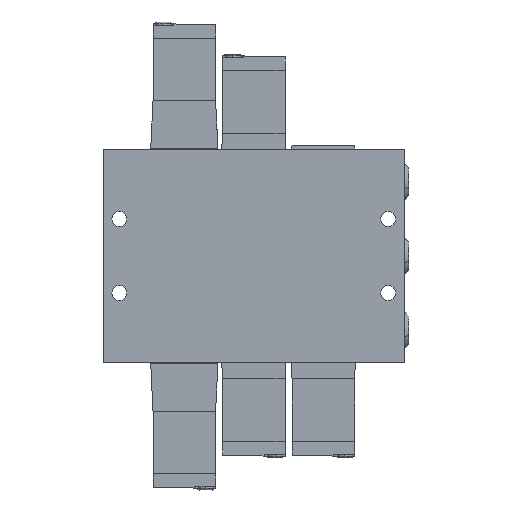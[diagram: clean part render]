
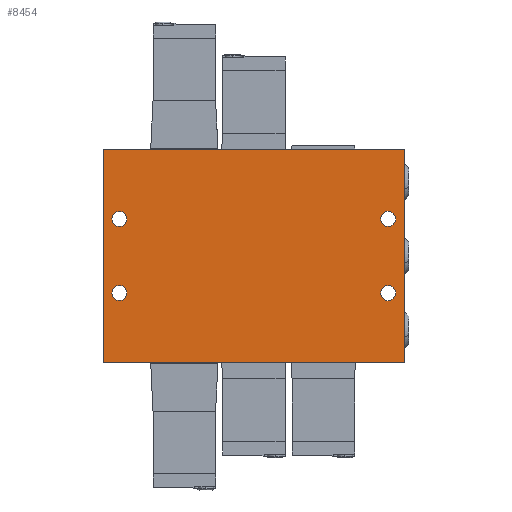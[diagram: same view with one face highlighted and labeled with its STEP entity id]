
A CAD part, front view. The second image highlights one B-rep face of the part: STEP entity #8454.
In plain terms, the highlighted planar face has unit normal (0, -1, 0).
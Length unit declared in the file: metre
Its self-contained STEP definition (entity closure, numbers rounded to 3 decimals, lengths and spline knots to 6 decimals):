
#46 = FACE_BOUND ( 'NONE', #6497, .T. ) ;
#160 = VECTOR ( 'NONE', #11881, 1. ) ;
#328 = DIRECTION ( 'NONE',  ( 0., -1., 0. ) ) ;
#375 = AXIS2_PLACEMENT_3D ( 'NONE', #6476, #17003, #7943 ) ;
#564 = ORIENTED_EDGE ( 'NONE', *, *, #4190, .F. ) ;
#855 = ORIENTED_EDGE ( 'NONE', *, *, #9497, .F. ) ;
#1053 = DIRECTION ( 'NONE',  ( -1., 0., 0. ) ) ;
#1081 = LINE ( 'NONE', #6040, #160 ) ;
#1249 = CIRCLE ( 'NONE', #12542, 0.00325 ) ;
#1384 = EDGE_CURVE ( 'NONE', #9341, #5748, #1405, .T. ) ;
#1405 = CIRCLE ( 'NONE', #14815, 0.00325 ) ;
#2086 = ORIENTED_EDGE ( 'NONE', *, *, #8927, .F. ) ;
#2111 = CARTESIAN_POINT ( 'NONE',  ( 0.05475, -0.015, -0.016 ) ) ;
#2364 = DIRECTION ( 'NONE',  ( -1., 0., 0. ) ) ;
#2563 = CIRCLE ( 'NONE', #3011, 0.00325 ) ;
#2724 = LINE ( 'NONE', #17161, #19052 ) ;
#2935 = LINE ( 'NONE', #16051, #10816 ) ;
#3011 = AXIS2_PLACEMENT_3D ( 'NONE', #13365, #7405, #7380 ) ;
#3055 = EDGE_CURVE ( 'NONE', #9360, #11963, #1249, .T. ) ;
#3100 = DIRECTION ( 'NONE',  ( 0., 0., 1. ) ) ;
#3119 = CARTESIAN_POINT ( 'NONE',  ( -0.065, -0.015, 0. ) ) ;
#3154 = CARTESIAN_POINT ( 'NONE',  ( -0.058, -0.015, -0.016 ) ) ;
#3801 = CARTESIAN_POINT ( 'NONE',  ( -0.05475, -0.015, -0.016 ) ) ;
#3926 = FACE_BOUND ( 'NONE', #5389, .T. ) ;
#3974 = EDGE_LOOP ( 'NONE', ( #12138, #5933 ) ) ;
#4190 = EDGE_CURVE ( 'NONE', #15851, #13577, #9981, .T. ) ;
#4223 = CARTESIAN_POINT ( 'NONE',  ( -0.065, -0.015, -0.046 ) ) ;
#4307 = VERTEX_POINT ( 'NONE', #8128 ) ;
#4578 = DIRECTION ( 'NONE',  ( -1., 0., 0. ) ) ;
#5389 = EDGE_LOOP ( 'NONE', ( #564, #14085 ) ) ;
#5475 = DIRECTION ( 'NONE',  ( 0., -1., 0. ) ) ;
#5748 = VERTEX_POINT ( 'NONE', #2111 ) ;
#5881 = VERTEX_POINT ( 'NONE', #3801 ) ;
#5933 = ORIENTED_EDGE ( 'NONE', *, *, #1384, .F. ) ;
#6040 = CARTESIAN_POINT ( 'NONE',  ( 0., -0.015, 0.046 ) ) ;
#6160 = CARTESIAN_POINT ( 'NONE',  ( -0.058, -0.015, 0.016 ) ) ;
#6231 = AXIS2_PLACEMENT_3D ( 'NONE', #6160, #16712, #7635 ) ;
#6476 = CARTESIAN_POINT ( 'NONE',  ( 0.058, -0.015, 0.016 ) ) ;
#6497 = EDGE_LOOP ( 'NONE', ( #12091, #855 ) ) ;
#6577 = CARTESIAN_POINT ( 'NONE',  ( -0.05475, -0.015, 0.016 ) ) ;
#6895 = DIRECTION ( 'NONE',  ( 0., -1., 0. ) ) ;
#6965 = DIRECTION ( 'NONE',  ( -1., 0., 0. ) ) ;
#6972 = EDGE_CURVE ( 'NONE', #4307, #15848, #2724, .T. ) ;
#7380 = DIRECTION ( 'NONE',  ( -1., 0., 0. ) ) ;
#7405 = DIRECTION ( 'NONE',  ( 0., -1., 0. ) ) ;
#7485 = CARTESIAN_POINT ( 'NONE',  ( 0.065, -0.015, 0.046 ) ) ;
#7635 = DIRECTION ( 'NONE',  ( -1., 0., 0. ) ) ;
#7727 = CIRCLE ( 'NONE', #375, 0.00325 ) ;
#7943 = DIRECTION ( 'NONE',  ( -1., 0., 0. ) ) ;
#8128 = CARTESIAN_POINT ( 'NONE',  ( 0.065, -0.015, -0.046 ) ) ;
#8381 = ORIENTED_EDGE ( 'NONE', *, *, #12539, .F. ) ;
#8442 = ORIENTED_EDGE ( 'NONE', *, *, #12973, .F. ) ;
#8454 = ADVANCED_FACE ( 'NONE', ( #3926, #46, #11865, #15908, #15433 ), #17199, .F. ) ;
#8927 = EDGE_CURVE ( 'NONE', #15848, #16183, #17535, .T. ) ;
#9139 = CARTESIAN_POINT ( 'NONE',  ( -0.058, -0.015, 0.016 ) ) ;
#9341 = VERTEX_POINT ( 'NONE', #10810 ) ;
#9360 = VERTEX_POINT ( 'NONE', #11008 ) ;
#9497 = EDGE_CURVE ( 'NONE', #5881, #15809, #2563, .T. ) ;
#9708 = DIRECTION ( 'NONE',  ( 0., -1., 0. ) ) ;
#9721 = AXIS2_PLACEMENT_3D ( 'NONE', #14506, #5475, #16031 ) ;
#9962 = ORIENTED_EDGE ( 'NONE', *, *, #6972, .F. ) ;
#9981 = CIRCLE ( 'NONE', #13051, 0.00325 ) ;
#10631 = DIRECTION ( 'NONE',  ( -1., 0., 0. ) ) ;
#10810 = CARTESIAN_POINT ( 'NONE',  ( 0.06125, -0.015, -0.016 ) ) ;
#10816 = VECTOR ( 'NONE', #11548, 1. ) ;
#11008 = CARTESIAN_POINT ( 'NONE',  ( -0.06125, -0.015, 0.016 ) ) ;
#11260 = CARTESIAN_POINT ( 'NONE',  ( 0.058, -0.015, -0.016 ) ) ;
#11427 = EDGE_CURVE ( 'NONE', #5748, #9341, #14900, .T. ) ;
#11545 = CIRCLE ( 'NONE', #13571, 0.00325 ) ;
#11548 = DIRECTION ( 'NONE',  ( 0., 0., -1. ) ) ;
#11865 = FACE_BOUND ( 'NONE', #12867, .T. ) ;
#11881 = DIRECTION ( 'NONE',  ( 1., 0., 0. ) ) ;
#11963 = VERTEX_POINT ( 'NONE', #6577 ) ;
#12023 = CIRCLE ( 'NONE', #6231, 0.00325 ) ;
#12091 = ORIENTED_EDGE ( 'NONE', *, *, #13180, .F. ) ;
#12138 = ORIENTED_EDGE ( 'NONE', *, *, #11427, .F. ) ;
#12539 = EDGE_CURVE ( 'NONE', #11963, #9360, #12023, .T. ) ;
#12542 = AXIS2_PLACEMENT_3D ( 'NONE', #9139, #328, #10631 ) ;
#12867 = EDGE_LOOP ( 'NONE', ( #16203, #8381 ) ) ;
#12973 = EDGE_CURVE ( 'NONE', #13163, #4307, #2935, .T. ) ;
#13051 = AXIS2_PLACEMENT_3D ( 'NONE', #14060, #6895, #6965 ) ;
#13163 = VERTEX_POINT ( 'NONE', #7485 ) ;
#13180 = EDGE_CURVE ( 'NONE', #15809, #5881, #11545, .T. ) ;
#13365 = CARTESIAN_POINT ( 'NONE',  ( -0.058, -0.015, -0.016 ) ) ;
#13551 = VECTOR ( 'NONE', #3100, 1. ) ;
#13571 = AXIS2_PLACEMENT_3D ( 'NONE', #3154, #13596, #4578 ) ;
#13577 = VERTEX_POINT ( 'NONE', #14633 ) ;
#13596 = DIRECTION ( 'NONE',  ( 0., -1., 0. ) ) ;
#14053 = CARTESIAN_POINT ( 'NONE',  ( -0.065, -0.015, 0.046 ) ) ;
#14060 = CARTESIAN_POINT ( 'NONE',  ( 0.058, -0.015, 0.016 ) ) ;
#14085 = ORIENTED_EDGE ( 'NONE', *, *, #14445, .F. ) ;
#14445 = EDGE_CURVE ( 'NONE', #13577, #15851, #7727, .T. ) ;
#14506 = CARTESIAN_POINT ( 'NONE',  ( 0.058, -0.015, -0.016 ) ) ;
#14633 = CARTESIAN_POINT ( 'NONE',  ( 0.06125, -0.015, 0.016 ) ) ;
#14815 = AXIS2_PLACEMENT_3D ( 'NONE', #11260, #9708, #2364 ) ;
#14900 = CIRCLE ( 'NONE', #9721, 0.00325 ) ;
#15353 = EDGE_CURVE ( 'NONE', #16183, #13163, #1081, .T. ) ;
#15433 = FACE_OUTER_BOUND ( 'NONE', #17089, .T. ) ;
#15809 = VERTEX_POINT ( 'NONE', #16102 ) ;
#15848 = VERTEX_POINT ( 'NONE', #4223 ) ;
#15851 = VERTEX_POINT ( 'NONE', #19047 ) ;
#15908 = FACE_BOUND ( 'NONE', #3974, .T. ) ;
#16031 = DIRECTION ( 'NONE',  ( -1., 0., 0. ) ) ;
#16051 = CARTESIAN_POINT ( 'NONE',  ( 0.065, -0.015, 0. ) ) ;
#16102 = CARTESIAN_POINT ( 'NONE',  ( -0.06125, -0.015, -0.016 ) ) ;
#16183 = VERTEX_POINT ( 'NONE', #14053 ) ;
#16203 = ORIENTED_EDGE ( 'NONE', *, *, #3055, .F. ) ;
#16529 = AXIS2_PLACEMENT_3D ( 'NONE', #17011, #17369, #17421 ) ;
#16712 = DIRECTION ( 'NONE',  ( 0., -1., 0. ) ) ;
#17003 = DIRECTION ( 'NONE',  ( 0., -1., 0. ) ) ;
#17011 = CARTESIAN_POINT ( 'NONE',  ( -0.065, -0.015, -0.046 ) ) ;
#17089 = EDGE_LOOP ( 'NONE', ( #8442, #17836, #2086, #9962 ) ) ;
#17161 = CARTESIAN_POINT ( 'NONE',  ( 0., -0.015, -0.046 ) ) ;
#17199 = PLANE ( 'NONE',  #16529 ) ;
#17369 = DIRECTION ( 'NONE',  ( 0., 1., 0. ) ) ;
#17421 = DIRECTION ( 'NONE',  ( 0., 0., 1. ) ) ;
#17535 = LINE ( 'NONE', #3119, #13551 ) ;
#17836 = ORIENTED_EDGE ( 'NONE', *, *, #15353, .F. ) ;
#19047 = CARTESIAN_POINT ( 'NONE',  ( 0.05475, -0.015, 0.016 ) ) ;
#19052 = VECTOR ( 'NONE', #1053, 1. ) ;
